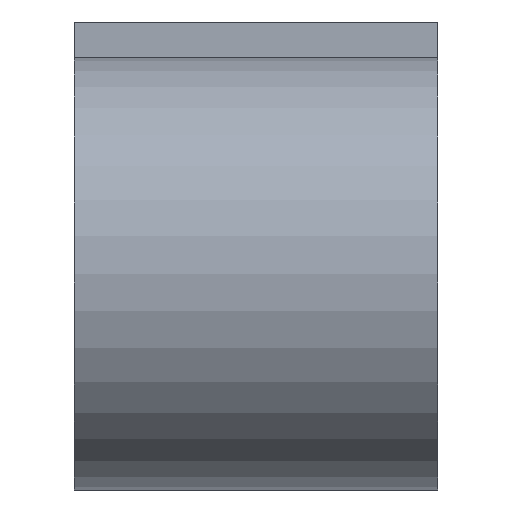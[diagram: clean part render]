
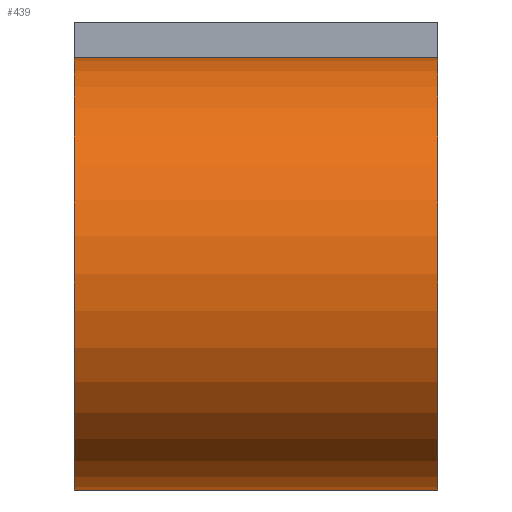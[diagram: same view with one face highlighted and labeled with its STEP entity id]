
A CAD part, left-side view. The second image highlights one B-rep face of the part: STEP entity #439.
In plain terms, the highlighted cylindrical face has radius 8.039 mm (diameter 16.078 mm), a partial arc.
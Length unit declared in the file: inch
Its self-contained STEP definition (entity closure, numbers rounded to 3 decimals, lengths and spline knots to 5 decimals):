
#30 = CIRCLE ( 'NONE', #172, 0.3165 ) ;
#76 = AXIS2_PLACEMENT_3D ( 'NONE', #203, #997, #390 ) ;
#79 = EDGE_LOOP ( 'NONE', ( #454, #770, #367, #1015 ) ) ;
#84 = DIRECTION ( 'NONE',  ( 0., 1., 0. ) ) ;
#109 = FACE_OUTER_BOUND ( 'NONE', #79, .T. ) ;
#112 = CARTESIAN_POINT ( 'NONE',  ( -1.26, -0.1, 0.3165 ) ) ;
#172 = AXIS2_PLACEMENT_3D ( 'NONE', #421, #248, #601 ) ;
#203 = CARTESIAN_POINT ( 'NONE',  ( -1.26, 0.433, 0. ) ) ;
#220 = AXIS2_PLACEMENT_3D ( 'NONE', #495, #84, #506 ) ;
#248 = DIRECTION ( 'NONE',  ( 0., -1., 0. ) ) ;
#367 = ORIENTED_EDGE ( 'NONE', *, *, #1098, .F. ) ;
#390 = DIRECTION ( 'NONE',  ( 0., 0., -1. ) ) ;
#395 = CARTESIAN_POINT ( 'NONE',  ( -1.26, 0.433, -0.3165 ) ) ;
#421 = CARTESIAN_POINT ( 'NONE',  ( -1.26, -0.1, 0. ) ) ;
#439 = ADVANCED_FACE ( 'NONE', ( #109 ), #453, .T. ) ;
#444 = VECTOR ( 'NONE', #455, 39.37008 ) ;
#453 = CYLINDRICAL_SURFACE ( 'NONE', #76, 0.3165 ) ;
#454 = ORIENTED_EDGE ( 'NONE', *, *, #577, .T. ) ;
#455 = DIRECTION ( 'NONE',  ( 0., -1., 0. ) ) ;
#459 = DIRECTION ( 'NONE',  ( 0., -1., 0. ) ) ;
#495 = CARTESIAN_POINT ( 'NONE',  ( -1.26, 0.433, 0. ) ) ;
#506 = DIRECTION ( 'NONE',  ( 1., 0., 0. ) ) ;
#556 = CARTESIAN_POINT ( 'NONE',  ( -1.26, 0.433, 0.3165 ) ) ;
#577 = EDGE_CURVE ( 'NONE', #691, #1004, #634, .T. ) ;
#601 = DIRECTION ( 'NONE',  ( 0., 0., -1. ) ) ;
#634 = LINE ( 'NONE', #395, #645 ) ;
#645 = VECTOR ( 'NONE', #459, 39.37008 ) ;
#691 = VERTEX_POINT ( 'NONE', #974 ) ;
#711 = LINE ( 'NONE', #1072, #444 ) ;
#719 = CIRCLE ( 'NONE', #220, 0.3165 ) ;
#764 = VERTEX_POINT ( 'NONE', #556 ) ;
#770 = ORIENTED_EDGE ( 'NONE', *, *, #1069, .F. ) ;
#791 = VERTEX_POINT ( 'NONE', #112 ) ;
#974 = CARTESIAN_POINT ( 'NONE',  ( -1.26, 0.433, -0.3165 ) ) ;
#997 = DIRECTION ( 'NONE',  ( 0., -1., 0. ) ) ;
#1004 = VERTEX_POINT ( 'NONE', #1133 ) ;
#1015 = ORIENTED_EDGE ( 'NONE', *, *, #1034, .F. ) ;
#1034 = EDGE_CURVE ( 'NONE', #691, #764, #719, .T. ) ;
#1069 = EDGE_CURVE ( 'NONE', #791, #1004, #30, .T. ) ;
#1072 = CARTESIAN_POINT ( 'NONE',  ( -1.26, 0.433, 0.3165 ) ) ;
#1098 = EDGE_CURVE ( 'NONE', #764, #791, #711, .T. ) ;
#1133 = CARTESIAN_POINT ( 'NONE',  ( -1.26, -0.1, -0.3165 ) ) ;
